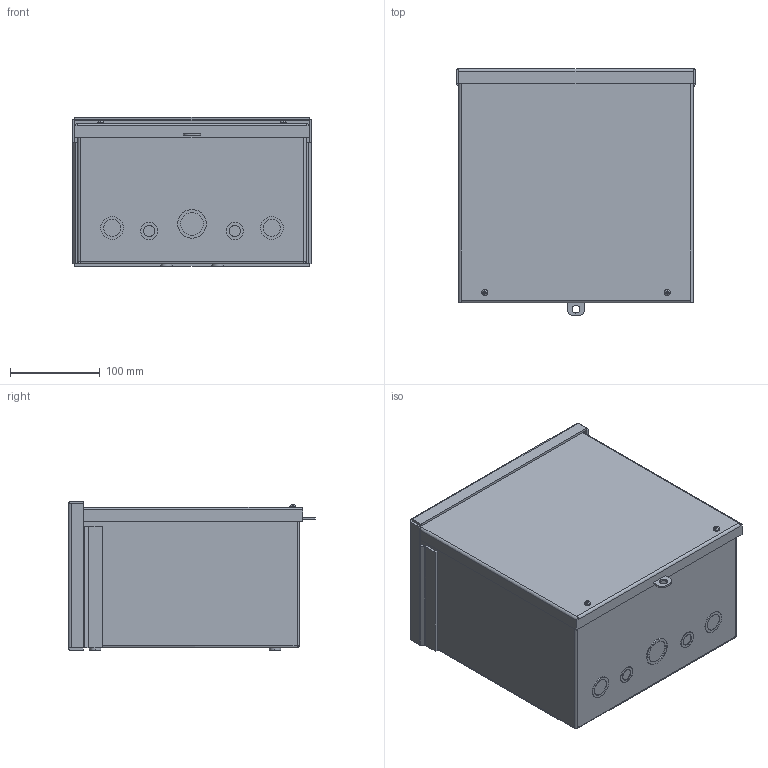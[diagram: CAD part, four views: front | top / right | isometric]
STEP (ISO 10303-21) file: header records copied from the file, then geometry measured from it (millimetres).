
FILE_DESCRIPTION((''),'1');
FILE_NAME('13','2001-04-17T',('jlue'),(''),'PRO/ENGINEER BY PARAMETRIC TECHNOLOGY CORPORATION, 9846','PRO/ENGINEER BY PARAMETRIC TECHNOLOGY CORPORATION, 9846','');
FILE_SCHEMA(('CONFIG_CONTROL_DESIGN'));
Length unit declared in the file: inch
Products named in the file (1): 13
Bounding box: 266.7 x 275.08 x 166.5 mm (x, y, z)
Surface area: 643436.7 mm2 (no closed solid volume)
Topology: 0 solids, 0 shells, 180 faces, 931 edges, 944 vertices
Faces by surface type: plane 101, cylinder 71, sphere 8
Entity records: 4781 total; most frequent: DIRECTION 972, COMPOSITE_CURVE_SEGMENT 886, CARTESIAN_POINT 760, TRIMMED_CURVE 454, AXIS2_PLACEMENT_3D 338, VECTOR 296, LINE 296, CURVE_BOUNDED_SURFACE 180
